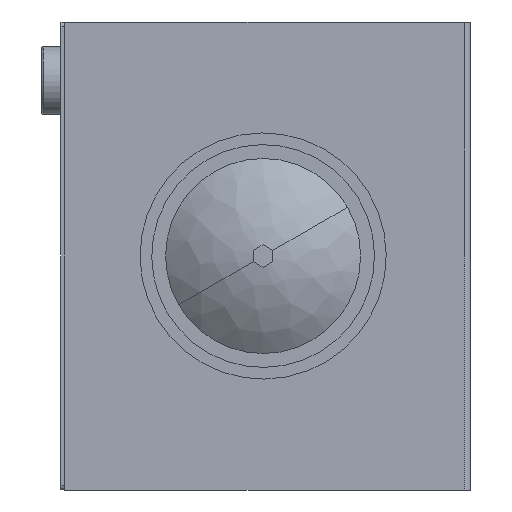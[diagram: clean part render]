
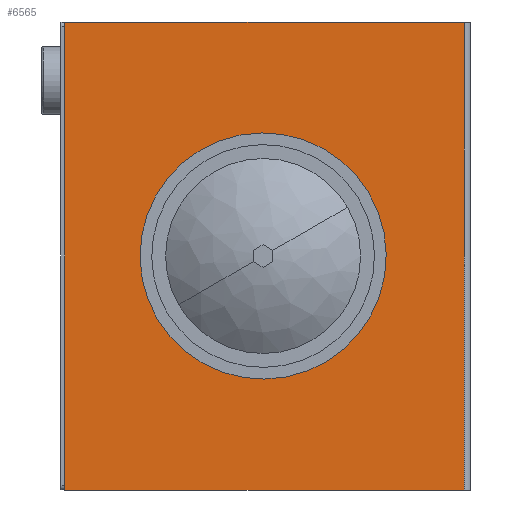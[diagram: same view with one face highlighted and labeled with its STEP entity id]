
A CAD part, left-side view. The second image highlights one B-rep face of the part: STEP entity #6565.
In plain terms, the highlighted planar face has unit normal (-1, 0, 0) as drawn and (1, 0, 0) by its records, which use the part's own axes.
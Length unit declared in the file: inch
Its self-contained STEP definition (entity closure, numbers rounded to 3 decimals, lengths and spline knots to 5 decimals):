
#155 = DIRECTION ( 'NONE',  ( -1., 0., 0. ) ) ;
#291 = EDGE_CURVE ( 'NONE', #8495, #7979, #4679, .T. ) ;
#795 = PLANE ( 'NONE',  #7467 ) ;
#890 = CARTESIAN_POINT ( 'NONE',  ( 0., -10.40625, 12. ) ) ;
#974 = VERTEX_POINT ( 'NONE', #5591 ) ;
#1051 = CIRCLE ( 'NONE', #7479, 5. ) ;
#1085 = CARTESIAN_POINT ( 'NONE',  ( 0., 0.22825, 5. ) ) ;
#1709 = ORIENTED_EDGE ( 'NONE', *, *, #8548, .F. ) ;
#1758 = CARTESIAN_POINT ( 'NONE',  ( 0., 0.22825, 0. ) ) ;
#1834 = FACE_OUTER_BOUND ( 'NONE', #5358, .T. ) ;
#1938 = EDGE_CURVE ( 'NONE', #3156, #974, #4049, .T. ) ;
#1969 = DIRECTION ( 'NONE',  ( 0., 0., -1. ) ) ;
#2034 = CARTESIAN_POINT ( 'NONE',  ( 0., 0.22825, 0. ) ) ;
#2182 = CARTESIAN_POINT ( 'NONE',  ( 0., -10.09375, -12. ) ) ;
#2454 = VECTOR ( 'NONE', #1969, 39.37008 ) ;
#2458 = DIRECTION ( 'NONE',  ( 0., 0., -1. ) ) ;
#2742 = DIRECTION ( 'NONE',  ( 0., 0., -1. ) ) ;
#2860 = EDGE_CURVE ( 'NONE', #4321, #3156, #8804, .T. ) ;
#3156 = VERTEX_POINT ( 'NONE', #4613 ) ;
#3239 = VECTOR ( 'NONE', #4521, 39.37008 ) ;
#3250 = VECTOR ( 'NONE', #8530, 39.37008 ) ;
#3487 = FACE_BOUND ( 'NONE', #5890, .T. ) ;
#3714 = DIRECTION ( 'NONE',  ( 0., -1., 0. ) ) ;
#3833 = VECTOR ( 'NONE', #3714, 39.37008 ) ;
#3870 = EDGE_CURVE ( 'NONE', #974, #7755, #4328, .T. ) ;
#4049 = LINE ( 'NONE', #890, #3833 ) ;
#4321 = VERTEX_POINT ( 'NONE', #6430 ) ;
#4328 = LINE ( 'NONE', #6158, #2454 ) ;
#4521 = DIRECTION ( 'NONE',  ( 0., 1., 0. ) ) ;
#4600 = ORIENTED_EDGE ( 'NONE', *, *, #291, .F. ) ;
#4613 = CARTESIAN_POINT ( 'NONE',  ( 0., 10.40625, 12. ) ) ;
#4679 = CIRCLE ( 'NONE', #7711, 5. ) ;
#5032 = DIRECTION ( 'NONE',  ( 0., 0., 1. ) ) ;
#5358 = EDGE_LOOP ( 'NONE', ( #8432, #8039, #5561, #8989 ) ) ;
#5561 = ORIENTED_EDGE ( 'NONE', *, *, #2860, .T. ) ;
#5591 = CARTESIAN_POINT ( 'NONE',  ( 0., -10.09375, 12. ) ) ;
#5890 = EDGE_LOOP ( 'NONE', ( #4600, #1709 ) ) ;
#6158 = CARTESIAN_POINT ( 'NONE',  ( 0., -10.09375, 12. ) ) ;
#6430 = CARTESIAN_POINT ( 'NONE',  ( 0., 10.40625, -12. ) ) ;
#6565 = ADVANCED_FACE ( 'NONE', ( #3487, #1834 ), #795, .F. ) ;
#6587 = CARTESIAN_POINT ( 'NONE',  ( 0., 0.22825, -5. ) ) ;
#6649 = DIRECTION ( 'NONE',  ( 1., 0., 0. ) ) ;
#6925 = DIRECTION ( 'NONE',  ( 1., 0., 0. ) ) ;
#7429 = EDGE_CURVE ( 'NONE', #7755, #4321, #8594, .T. ) ;
#7467 = AXIS2_PLACEMENT_3D ( 'NONE', #8504, #155, #5032 ) ;
#7479 = AXIS2_PLACEMENT_3D ( 'NONE', #1758, #6649, #2458 ) ;
#7711 = AXIS2_PLACEMENT_3D ( 'NONE', #2034, #6925, #2742 ) ;
#7755 = VERTEX_POINT ( 'NONE', #2182 ) ;
#7816 = CARTESIAN_POINT ( 'NONE',  ( 0., 10.40625, 12. ) ) ;
#7979 = VERTEX_POINT ( 'NONE', #1085 ) ;
#8039 = ORIENTED_EDGE ( 'NONE', *, *, #7429, .T. ) ;
#8432 = ORIENTED_EDGE ( 'NONE', *, *, #3870, .T. ) ;
#8495 = VERTEX_POINT ( 'NONE', #6587 ) ;
#8504 = CARTESIAN_POINT ( 'NONE',  ( 0., 0., 0. ) ) ;
#8530 = DIRECTION ( 'NONE',  ( 0., 0., 1. ) ) ;
#8548 = EDGE_CURVE ( 'NONE', #7979, #8495, #1051, .T. ) ;
#8594 = LINE ( 'NONE', #8701, #3239 ) ;
#8701 = CARTESIAN_POINT ( 'NONE',  ( 0., -10.40625, -12. ) ) ;
#8804 = LINE ( 'NONE', #7816, #3250 ) ;
#8989 = ORIENTED_EDGE ( 'NONE', *, *, #1938, .T. ) ;
